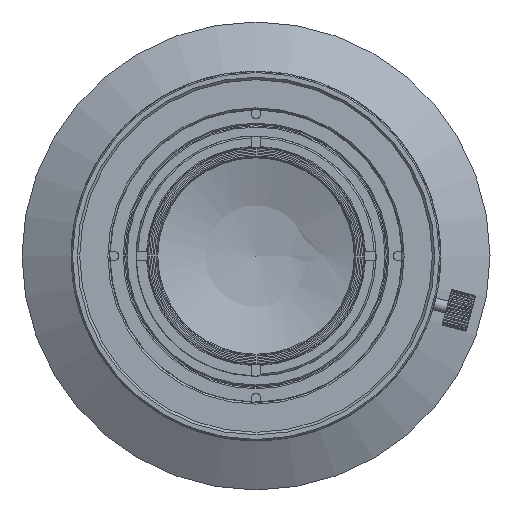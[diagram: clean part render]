
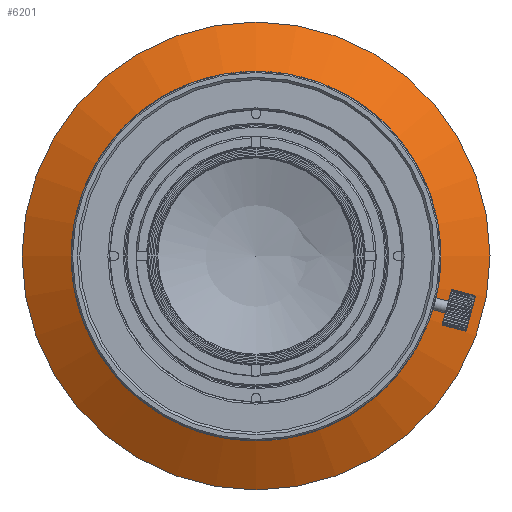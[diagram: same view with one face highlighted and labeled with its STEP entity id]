
A CAD part, left-side view. The second image highlights one B-rep face of the part: STEP entity #6201.
In plain terms, the highlighted conical face has half-angle 60.25 degrees and reference radius 38 mm.
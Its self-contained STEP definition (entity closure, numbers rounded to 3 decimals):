
#881=CONICAL_SURFACE('',#52841,38.,60.25);
#6201=ADVANCED_FACE('',(#18199,#18200),#881,.T.);
#18199=FACE_BOUND('',#19281,.T.);
#18200=FACE_BOUND('',#19282,.T.);
#19281=EDGE_LOOP('',(#24204));
#19282=EDGE_LOOP('',(#24205));
#24204=ORIENTED_EDGE('',*,*,#43267,.F.);
#24205=ORIENTED_EDGE('',*,*,#43266,.T.);
#37857=VERTEX_POINT('',#79337);
#37858=VERTEX_POINT('',#79340);
#43266=EDGE_CURVE('',#37857,#37857,#50078,.T.);
#43267=EDGE_CURVE('',#37858,#37858,#50079,.T.);
#50078=CIRCLE('',#52838,38.);
#50079=CIRCLE('',#52840,30.005);
#52838=AXIS2_PLACEMENT_3D('',#79336,#59157,#59158);
#52840=AXIS2_PLACEMENT_3D('',#79339,#59161,#59162);
#52841=AXIS2_PLACEMENT_3D('',#79341,#59163,#59164);
#59157=DIRECTION('',(-1.,0.,0.));
#59158=DIRECTION('',(0.,0.,1.));
#59161=DIRECTION('',(-1.,0.,0.));
#59162=DIRECTION('',(0.,0.,1.));
#59163=DIRECTION('',(1.,0.,0.));
#59164=DIRECTION('',(0.,0.,1.));
#79336=CARTESIAN_POINT('',(46.504,0.,0.));
#79337=CARTESIAN_POINT('',(46.504,0.,38.));
#79339=CARTESIAN_POINT('',(41.935,0.,0.));
#79340=CARTESIAN_POINT('',(41.935,0.,30.005));
#79341=CARTESIAN_POINT('',(46.504,0.,0.));
